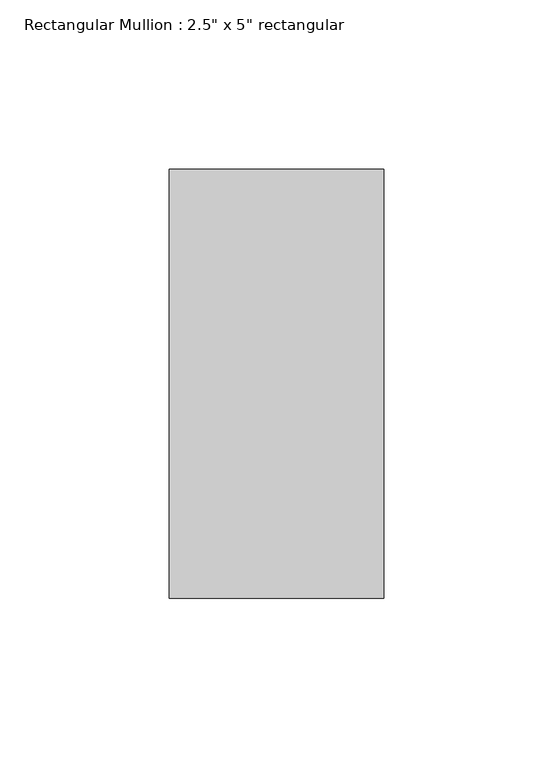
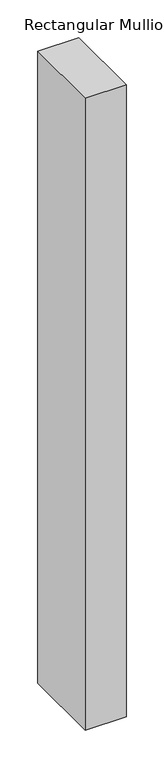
"""IFC4 building model written with IfcOpenShell, lengths in millimetres: member geometry."""

from ifc_helpers import new_model, si_unit, frame, origin, place, context, project, spatial, polyline, outline, extrude, source, transform, mapped, element, save


def member_b5f2627a(model_context):
    return source(origin(), model_context, "Body", "SweptSolid", [
        extrude(outline(polyline([(31.75, 63.5), (31.75, -63.5), (-31.75, -63.5), (-31.75, 63.5), (31.75, 63.5)])), frame((0.0, 0.0, -1028.7), z_axis=(0.0, 0.0, 1.0), x_axis=(1.0, 0.0, 0.0)), (0.0, 0.0, 1.0), 1028.7),
    ])


if __name__ == "__main__":
    model = new_model("IFC4")
    model_context = context("Model", 3, world=origin())
    ifc_project = project(units=[si_unit("LENGTHUNIT", "METRE", prefix="MILLI")], contexts=[model_context])
    site = spatial("IfcSite", under=ifc_project)
    building = spatial("IfcBuilding", under=site)
    placement = place(None, origin())
    member_shape = member_b5f2627a(model_context)
    element("IfcMember", 1, ObjectType="Rectangular Mullion : 2.5\" x 5\" rectangular", at=placement, inside=building, context=model_context, shape_type="MappedRepresentation", body=[
        mapped(member_shape, transform((0.0, 0.0, 0.0), x_axis=(1.0, 0.0, 0.0), y_axis=(0.0, 1.0, 0.0), z_axis=(0.0, 0.0, 1.0))),
    ])
    save(model, "model.ifc")
